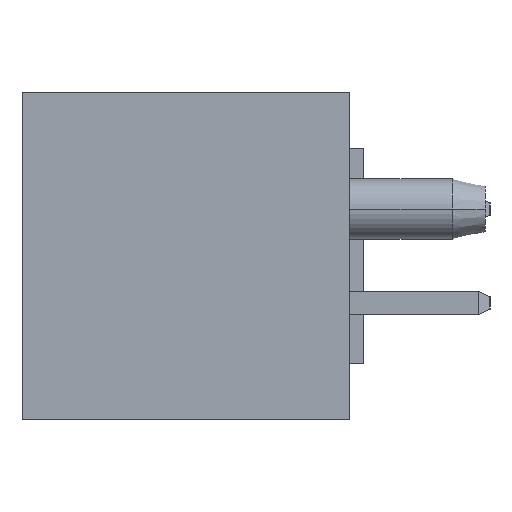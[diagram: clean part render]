
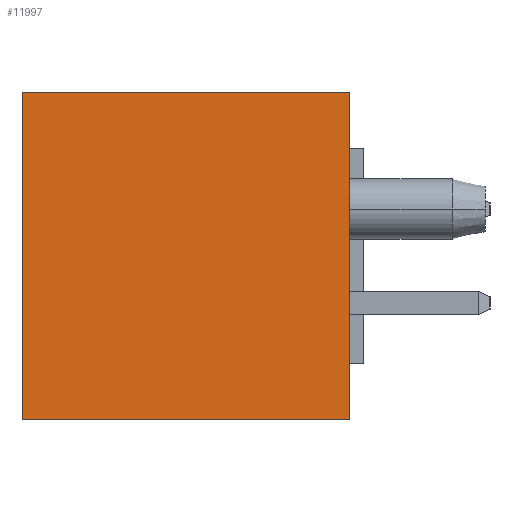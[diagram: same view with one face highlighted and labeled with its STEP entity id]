
A CAD part, left-side view. The second image highlights one B-rep face of the part: STEP entity #11997.
In plain terms, the highlighted planar face has unit normal (-1, 0, 0).
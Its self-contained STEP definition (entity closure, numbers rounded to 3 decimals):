
#1=DIRECTION('',(0.,-1.,0.));
#2=VECTOR('',#1,8.89);
#3=CARTESIAN_POINT('',(-31.75,8.89,-4.445));
#4=LINE('',#3,#2);
#17=DIRECTION('',(0.,0.,1.));
#18=VECTOR('',#17,8.89);
#19=CARTESIAN_POINT('',(-31.75,8.89,-4.445));
#20=LINE('',#19,#18);
#82=DIRECTION('',(0.,-1.,0.));
#83=VECTOR('',#82,8.89);
#84=CARTESIAN_POINT('',(-31.75,8.89,4.445));
#85=LINE('',#84,#83);
#1534=DIRECTION('',(0.,0.,1.));
#1535=VECTOR('',#1534,8.89);
#1536=CARTESIAN_POINT('',(-31.75,0.,-4.445));
#1537=LINE('',#1536,#1535);
#9207=CARTESIAN_POINT('',(-31.75,8.89,-4.445));
#9208=CARTESIAN_POINT('',(-31.75,0.,-4.445));
#9209=VERTEX_POINT('',#9207);
#9210=VERTEX_POINT('',#9208);
#9215=CARTESIAN_POINT('',(-31.75,8.89,4.445));
#9216=CARTESIAN_POINT('',(-31.75,0.,4.445));
#9217=VERTEX_POINT('',#9215);
#9218=VERTEX_POINT('',#9216);
#11983=CARTESIAN_POINT('',(-31.75,8.89,-4.445));
#11984=DIRECTION('',(-1.,0.,0.));
#11985=DIRECTION('',(0.,-1.,0.));
#11986=AXIS2_PLACEMENT_3D('',#11983,#11984,#11985);
#11987=PLANE('',#11986);
#11988=ORIENTED_EDGE('',*,*,#11972,.F.);
#11990=ORIENTED_EDGE('',*,*,#11989,.T.);
#11992=ORIENTED_EDGE('',*,*,#11991,.T.);
#11994=ORIENTED_EDGE('',*,*,#11993,.F.);
#11995=EDGE_LOOP('',(#11988,#11990,#11992,#11994));
#11996=FACE_OUTER_BOUND('',#11995,.F.);
#11997=ADVANCED_FACE('',(#11996),#11987,.T.);
#11972=EDGE_CURVE('',#9209,#9210,#4,.T.);
#11989=EDGE_CURVE('',#9209,#9217,#20,.T.);
#11991=EDGE_CURVE('',#9217,#9218,#85,.T.);
#11993=EDGE_CURVE('',#9210,#9218,#1537,.T.);
